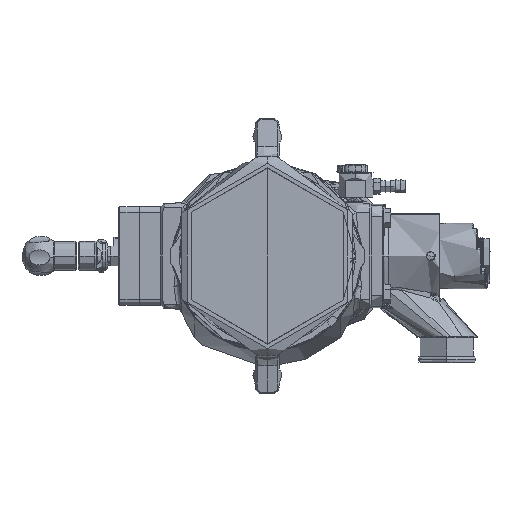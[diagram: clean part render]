
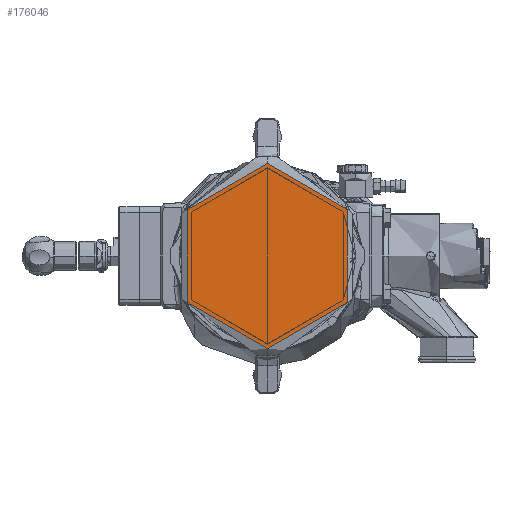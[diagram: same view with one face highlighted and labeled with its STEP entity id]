
A CAD part, left-side view. The second image highlights one B-rep face of the part: STEP entity #176046.
In plain terms, the highlighted planar face has unit normal (-1, 0, 0).
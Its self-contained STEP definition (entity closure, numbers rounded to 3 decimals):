
#319 = EDGE_LOOP ( 'NONE', ( #35729, #56056 ) ) ;
#6649 = EDGE_LOOP ( 'NONE', ( #125392, #163737 ) ) ;
#11088 = EDGE_CURVE ( 'NONE', #159226, #70902, #162132, .T. ) ;
#11438 = DIRECTION ( 'NONE',  ( 0., 0., -1. ) ) ;
#20992 = DIRECTION ( 'NONE',  ( 1., 0., 0. ) ) ;
#24102 = EDGE_CURVE ( 'NONE', #163636, #74287, #112258, .T. ) ;
#25617 = CARTESIAN_POINT ( 'NONE',  ( -5.108, 0., -3.575 ) ) ;
#25979 = DIRECTION ( 'NONE',  ( 1., 0., 0. ) ) ;
#32437 = CARTESIAN_POINT ( 'NONE',  ( -5.108, 0., -3.575 ) ) ;
#35222 = AXIS2_PLACEMENT_3D ( 'NONE', #41093, #25979, #11438 ) ;
#35729 = ORIENTED_EDGE ( 'NONE', *, *, #11088, .F. ) ;
#38518 = AXIS2_PLACEMENT_3D ( 'NONE', #122076, #92533, #38700 ) ;
#38700 = DIRECTION ( 'NONE',  ( 0., 0., -1. ) ) ;
#41093 = CARTESIAN_POINT ( 'NONE',  ( -5.108, 0., 0. ) ) ;
#49240 = CARTESIAN_POINT ( 'NONE',  ( -5.108, 0., -3.575 ) ) ;
#52242 = CARTESIAN_POINT ( 'NONE',  ( -5.108, -7.15, 3.575 ) ) ;
#52731 = EDGE_CURVE ( 'NONE', #74287, #163636, #152565, .T. ) ;
#56056 = ORIENTED_EDGE ( 'NONE', *, *, #113091, .F. ) ;
#60908 = DIRECTION ( 'NONE',  ( 0., 0., -1. ) ) ;
#62532 = CARTESIAN_POINT ( 'NONE',  ( -5.108, 0., 3.575 ) ) ;
#66525 = CIRCLE ( 'NONE', #35222, 3.75 ) ;
#70902 = VERTEX_POINT ( 'NONE', #168652 ) ;
#74287 = VERTEX_POINT ( 'NONE', #32437 ) ;
#74792 = CARTESIAN_POINT ( 'NONE',  ( -5.108, 0., -4.031 ) ) ;
#84991 = FACE_OUTER_BOUND ( 'NONE', #319, .T. ) ;
#90318 = CARTESIAN_POINT ( 'NONE',  ( -5.108, 7.15, -3.575 ) ) ;
#92533 = DIRECTION ( 'NONE',  ( 1., 0., 0. ) ) ;
#101999 = PLANE ( 'NONE',  #135398 ) ;
#102387 = FACE_BOUND ( 'NONE', #6649, .T. ) ;
#112258 =( BOUNDED_CURVE ( )  B_SPLINE_CURVE ( 3, ( #62532, #173060, #90318, #49240 ),
 .UNSPECIFIED., .F., .F. ) 
 B_SPLINE_CURVE_WITH_KNOTS ( ( 4, 4 ),
 ( 0., 1. ),
 .UNSPECIFIED. ) 
 CURVE ( )  GEOMETRIC_REPRESENTATION_ITEM ( )  RATIONAL_B_SPLINE_CURVE ( ( 1., 0.333, 0.333, 1. ) ) 
 REPRESENTATION_ITEM ( '' )  );
#113091 = EDGE_CURVE ( 'NONE', #70902, #159226, #66525, .T. ) ;
#122076 = CARTESIAN_POINT ( 'NONE',  ( -5.108, 0., 0. ) ) ;
#122907 = CARTESIAN_POINT ( 'NONE',  ( -5.108, -7.15, -3.575 ) ) ;
#124391 = CARTESIAN_POINT ( 'NONE',  ( -5.108, 0., -3.75 ) ) ;
#125392 = ORIENTED_EDGE ( 'NONE', *, *, #52731, .F. ) ;
#133845 = CARTESIAN_POINT ( 'NONE',  ( -5.108, 0., 3.575 ) ) ;
#135049 = CARTESIAN_POINT ( 'NONE',  ( -5.108, 0., 3.575 ) ) ;
#135398 = AXIS2_PLACEMENT_3D ( 'NONE', #74792, #20992, #60908 ) ;
#152565 =( BOUNDED_CURVE ( )  B_SPLINE_CURVE ( 3, ( #25617, #122907, #52242, #135049 ),
 .UNSPECIFIED., .F., .T. ) 
 B_SPLINE_CURVE_WITH_KNOTS ( ( 4, 4 ),
 ( 0., 1. ),
 .UNSPECIFIED. ) 
 CURVE ( )  GEOMETRIC_REPRESENTATION_ITEM ( )  RATIONAL_B_SPLINE_CURVE ( ( 1., 0.333, 0.333, 1. ) ) 
 REPRESENTATION_ITEM ( '' )  );
#159226 = VERTEX_POINT ( 'NONE', #124391 ) ;
#162132 = CIRCLE ( 'NONE', #38518, 3.75 ) ;
#163636 = VERTEX_POINT ( 'NONE', #133845 ) ;
#163737 = ORIENTED_EDGE ( 'NONE', *, *, #24102, .F. ) ;
#168652 = CARTESIAN_POINT ( 'NONE',  ( -5.108, 0., 3.75 ) ) ;
#173060 = CARTESIAN_POINT ( 'NONE',  ( -5.108, 7.15, 3.575 ) ) ;
#176046 = ADVANCED_FACE ( 'NONE', ( #102387, #84991 ), #101999, .F. ) ;
